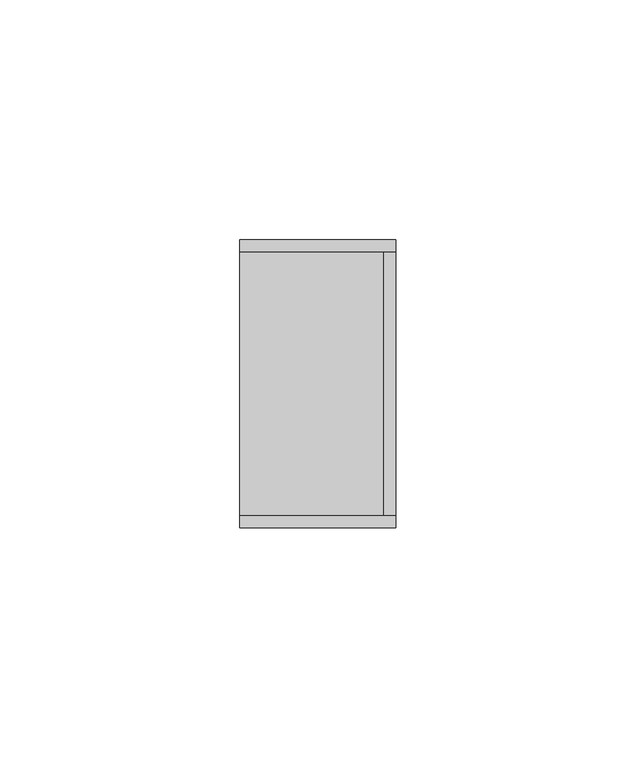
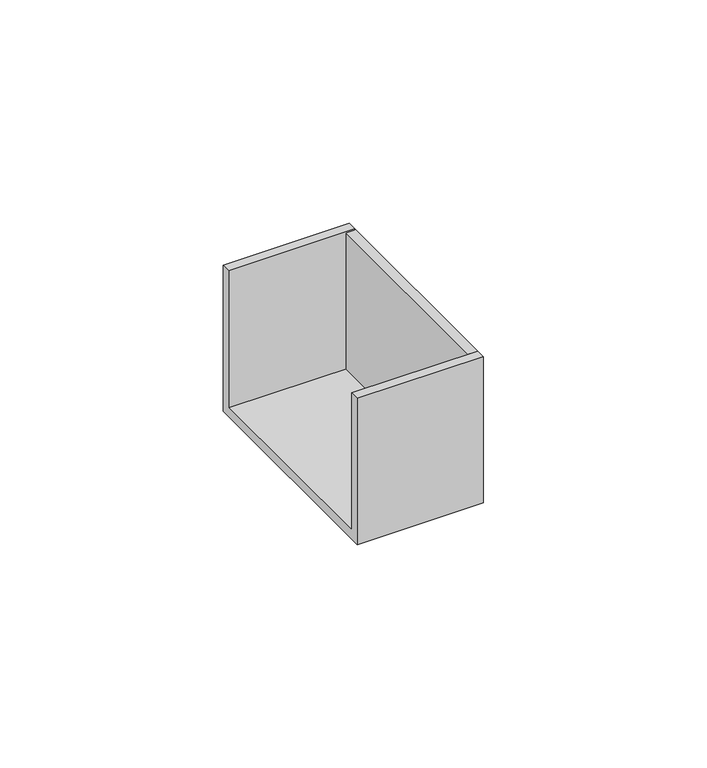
"""IFC4 building model written with IfcOpenShell, lengths in millimetres: cable carrier fitting geometry, КНС_ЗаглушкаТорцеваяLAN_ILC_DKC : Заглушка торцевая LAN_DKC."""

from ifc_helpers import new_model, si_unit, frame, origin, place, context, project, spatial, polyline, outline, extrude, source, transform, mapped, element, save


def cable_carrier_fitting_6d36d5f4(model_context):
    return source(origin(), model_context, "Body", "SweptSolid", [
        extrude(outline(polyline([(30.0, -20.0), (-30.0, -20.0), (-30.0, 20.0), (-27.5, 20.0), (-27.5, -17.5), (27.5, -17.5), (27.5, 20.0), (30.0, 20.0), (30.0, -20.0)])), frame((-32.5, 0.0, 0.0), z_axis=(1.0, 0.0, 0.0), x_axis=(0.0, 1.0, 0.0)), (0.0, 0.0, 1.0), 32.5),
        extrude(outline(polyline([(0.0, 27.5), (0.0, -27.5), (-2.5, -27.5), (-2.5, 27.5), (0.0, 27.5)])), frame((0.0, 0.0, -20.0), z_axis=(0.0, 0.0, 1.0), x_axis=(1.0, 0.0, 0.0)), (0.0, 0.0, 1.0), 40.0),
    ])


if __name__ == "__main__":
    model = new_model("IFC4")
    model_context = context("Model", 3, world=origin())
    ifc_project = project(units=[si_unit("LENGTHUNIT", "METRE", prefix="MILLI")], contexts=[model_context])
    site = spatial("IfcSite", under=ifc_project)
    building = spatial("IfcBuilding", under=site)
    placement = place(None, origin())
    cable_carrier_fitting_shape = cable_carrier_fitting_6d36d5f4(model_context)
    element("IfcCableCarrierFitting", 1, ObjectType="КНС_ЗаглушкаТорцеваяLAN_ILC_DKC : Заглушка торцевая LAN_DKC", at=placement, inside=building, context=model_context, shape_type="MappedRepresentation", body=[
        mapped(cable_carrier_fitting_shape, transform((0.0, 0.0, 0.0), x_axis=(1.0, 0.0, 0.0), y_axis=(0.0, 1.0, 0.0), z_axis=(0.0, 0.0, 1.0))),
    ])
    save(model, "model.ifc")
